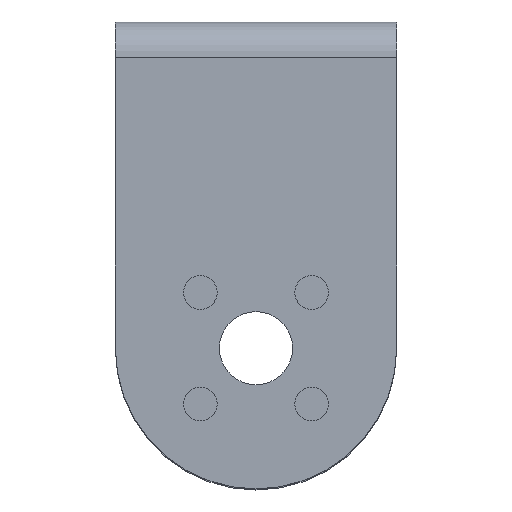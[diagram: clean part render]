
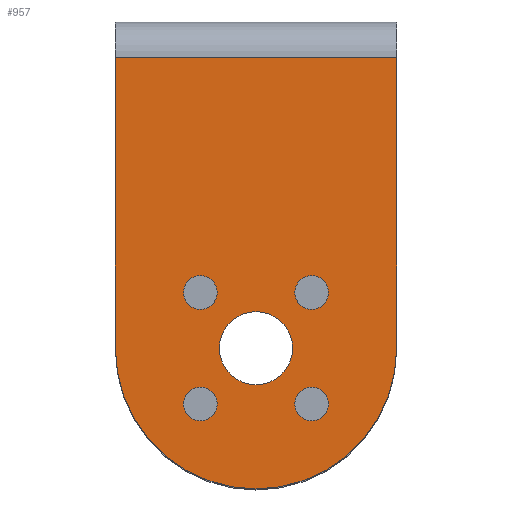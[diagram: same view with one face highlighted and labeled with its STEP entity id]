
A CAD part, top view. The second image highlights one B-rep face of the part: STEP entity #957.
In plain terms, the highlighted planar face has unit normal (0, 0, 1).
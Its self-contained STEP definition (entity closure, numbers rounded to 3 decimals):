
#15 = AXIS2_PLACEMENT_3D ( 'NONE', #530, #548, #400 ) ;
#35 = CARTESIAN_POINT ( 'NONE',  ( 12.5, -29., 28.15 ) ) ;
#44 = AXIS2_PLACEMENT_3D ( 'NONE', #791, #1202, #1334 ) ;
#49 = LINE ( 'NONE', #1377, #563 ) ;
#53 = VERTEX_POINT ( 'NONE', #1149 ) ;
#55 = CARTESIAN_POINT ( 'NONE',  ( 6.45, -24.05, 28.15 ) ) ;
#62 = FACE_BOUND ( 'NONE', #1198, .T. ) ;
#66 = VECTOR ( 'NONE', #1534, 1000. ) ;
#69 = AXIS2_PLACEMENT_3D ( 'NONE', #175, #1379, #1248 ) ;
#80 = FACE_BOUND ( 'NONE', #786, .T. ) ;
#92 = CARTESIAN_POINT ( 'NONE',  ( 4.95, -33.95, 28.15 ) ) ;
#128 = CARTESIAN_POINT ( 'NONE',  ( 0., -29., 28.15 ) ) ;
#129 = AXIS2_PLACEMENT_3D ( 'NONE', #701, #1274, #438 ) ;
#150 = CARTESIAN_POINT ( 'NONE',  ( 0., -29., 28.15 ) ) ;
#156 = AXIS2_PLACEMENT_3D ( 'NONE', #92, #1418, #480 ) ;
#159 = EDGE_CURVE ( 'NONE', #1717, #1580, #1251, .T. ) ;
#168 = CARTESIAN_POINT ( 'NONE',  ( 3.45, -33.95, 28.15 ) ) ;
#175 = CARTESIAN_POINT ( 'NONE',  ( 4.95, -24.05, 28.15 ) ) ;
#180 = DIRECTION ( 'NONE',  ( 0., 0., 1. ) ) ;
#189 = AXIS2_PLACEMENT_3D ( 'NONE', #970, #545, #1661 ) ;
#194 = ORIENTED_EDGE ( 'NONE', *, *, #796, .F. ) ;
#210 = EDGE_CURVE ( 'NONE', #1701, #1197, #1102, .T. ) ;
#215 = VECTOR ( 'NONE', #322, 1000. ) ;
#216 = AXIS2_PLACEMENT_3D ( 'NONE', #150, #803, #664 ) ;
#242 = AXIS2_PLACEMENT_3D ( 'NONE', #128, #1460, #1340 ) ;
#283 = DIRECTION ( 'NONE',  ( 1., 0., 0. ) ) ;
#303 = CARTESIAN_POINT ( 'NONE',  ( -12.5, -41.5, 28.15 ) ) ;
#322 = DIRECTION ( 'NONE',  ( 1., 0., 0. ) ) ;
#325 = ORIENTED_EDGE ( 'NONE', *, *, #1078, .F. ) ;
#333 = ORIENTED_EDGE ( 'NONE', *, *, #1561, .T. ) ;
#336 = CARTESIAN_POINT ( 'NONE',  ( 0., 0., 28.15 ) ) ;
#346 = EDGE_CURVE ( 'NONE', #914, #1055, #463, .T. ) ;
#357 = AXIS2_PLACEMENT_3D ( 'NONE', #733, #481, #899 ) ;
#381 = ORIENTED_EDGE ( 'NONE', *, *, #550, .F. ) ;
#387 = CARTESIAN_POINT ( 'NONE',  ( -6.45, -24.05, 28.15 ) ) ;
#396 = ORIENTED_EDGE ( 'NONE', *, *, #468, .F. ) ;
#400 = DIRECTION ( 'NONE',  ( 1., 0., 0. ) ) ;
#404 = CARTESIAN_POINT ( 'NONE',  ( 4.95, -33.95, 28.15 ) ) ;
#409 = EDGE_LOOP ( 'NONE', ( #1330, #1575 ) ) ;
#438 = DIRECTION ( 'NONE',  ( 1., 0., 0. ) ) ;
#439 = CIRCLE ( 'NONE', #129, 3.25 ) ;
#447 = DIRECTION ( 'NONE',  ( 1., 0., 0. ) ) ;
#459 = PLANE ( 'NONE',  #1298 ) ;
#463 = CIRCLE ( 'NONE', #15, 1.5 ) ;
#465 = CIRCLE ( 'NONE', #44, 3.25 ) ;
#467 = CIRCLE ( 'NONE', #1331, 1.5 ) ;
#468 = EDGE_CURVE ( 'NONE', #53, #646, #439, .T. ) ;
#470 = DIRECTION ( 'NONE',  ( 0., 0., -1. ) ) ;
#477 = FACE_BOUND ( 'NONE', #1150, .T. ) ;
#480 = DIRECTION ( 'NONE',  ( 1., 0., 0. ) ) ;
#481 = DIRECTION ( 'NONE',  ( 0., 0., 1. ) ) ;
#508 = ORIENTED_EDGE ( 'NONE', *, *, #1143, .F. ) ;
#529 = ORIENTED_EDGE ( 'NONE', *, *, #853, .F. ) ;
#530 = CARTESIAN_POINT ( 'NONE',  ( -4.95, -33.95, 28.15 ) ) ;
#533 = ORIENTED_EDGE ( 'NONE', *, *, #210, .F. ) ;
#545 = DIRECTION ( 'NONE',  ( 0., 0., 1. ) ) ;
#548 = DIRECTION ( 'NONE',  ( 0., 0., 1. ) ) ;
#550 = EDGE_CURVE ( 'NONE', #1478, #839, #842, .T. ) ;
#563 = VECTOR ( 'NONE', #574, 1000. ) ;
#573 = CARTESIAN_POINT ( 'NONE',  ( -6.45, -33.95, 28.15 ) ) ;
#574 = DIRECTION ( 'NONE',  ( 0., 1., 0. ) ) ;
#578 = CARTESIAN_POINT ( 'NONE',  ( -3.45, -24.05, 28.15 ) ) ;
#641 = AXIS2_PLACEMENT_3D ( 'NONE', #1504, #1245, #283 ) ;
#644 = CIRCLE ( 'NONE', #357, 1.5 ) ;
#646 = VERTEX_POINT ( 'NONE', #1688 ) ;
#664 = DIRECTION ( 'NONE',  ( 0., 1., 0. ) ) ;
#693 = EDGE_CURVE ( 'NONE', #1092, #1203, #962, .T. ) ;
#701 = CARTESIAN_POINT ( 'NONE',  ( 0., -29., 28.15 ) ) ;
#733 = CARTESIAN_POINT ( 'NONE',  ( -4.95, -24.05, 28.15 ) ) ;
#742 = FACE_BOUND ( 'NONE', #409, .T. ) ;
#756 = EDGE_LOOP ( 'NONE', ( #333, #1605, #1265, #325, #1318 ) ) ;
#768 = FACE_OUTER_BOUND ( 'NONE', #756, .T. ) ;
#786 = EDGE_LOOP ( 'NONE', ( #194, #396 ) ) ;
#791 = CARTESIAN_POINT ( 'NONE',  ( 0., -29., 28.15 ) ) ;
#796 = EDGE_CURVE ( 'NONE', #646, #53, #465, .T. ) ;
#803 = DIRECTION ( 'NONE',  ( 0., 0., 1. ) ) ;
#822 = VERTEX_POINT ( 'NONE', #387 ) ;
#839 = VERTEX_POINT ( 'NONE', #963 ) ;
#842 = CIRCLE ( 'NONE', #69, 1.5 ) ;
#853 = EDGE_CURVE ( 'NONE', #839, #1478, #1408, .T. ) ;
#899 = DIRECTION ( 'NONE',  ( 1., 0., 0. ) ) ;
#905 = CARTESIAN_POINT ( 'NONE',  ( -3.45, -33.95, 28.15 ) ) ;
#914 = VERTEX_POINT ( 'NONE', #573 ) ;
#932 = CARTESIAN_POINT ( 'NONE',  ( 6.45, -33.95, 28.15 ) ) ;
#937 = ORIENTED_EDGE ( 'NONE', *, *, #1684, .F. ) ;
#957 = ADVANCED_FACE ( 'NONE', ( #978, #742, #62, #80, #477, #768 ), #459, .F. ) ;
#962 = CIRCLE ( 'NONE', #242, 12.5 ) ;
#963 = CARTESIAN_POINT ( 'NONE',  ( 3.45, -24.05, 28.15 ) ) ;
#970 = CARTESIAN_POINT ( 'NONE',  ( -4.95, -33.95, 28.15 ) ) ;
#978 = FACE_BOUND ( 'NONE', #1557, .T. ) ;
#992 = CIRCLE ( 'NONE', #216, 12.5 ) ;
#1003 = LINE ( 'NONE', #1543, #215 ) ;
#1021 = AXIS2_PLACEMENT_3D ( 'NONE', #1538, #180, #447 ) ;
#1055 = VERTEX_POINT ( 'NONE', #905 ) ;
#1056 = DIRECTION ( 'NONE',  ( 0., 0., 1. ) ) ;
#1078 = EDGE_CURVE ( 'NONE', #1717, #1389, #1003, .T. ) ;
#1092 = VERTEX_POINT ( 'NONE', #1488 ) ;
#1102 = CIRCLE ( 'NONE', #156, 1.5 ) ;
#1111 = ORIENTED_EDGE ( 'NONE', *, *, #1474, .F. ) ;
#1143 = EDGE_CURVE ( 'NONE', #1197, #1701, #467, .T. ) ;
#1149 = CARTESIAN_POINT ( 'NONE',  ( -3.25, -29., 28.15 ) ) ;
#1150 = EDGE_LOOP ( 'NONE', ( #937, #1111 ) ) ;
#1197 = VERTEX_POINT ( 'NONE', #932 ) ;
#1198 = EDGE_LOOP ( 'NONE', ( #508, #533 ) ) ;
#1202 = DIRECTION ( 'NONE',  ( 0., 0., 1. ) ) ;
#1203 = VERTEX_POINT ( 'NONE', #35 ) ;
#1245 = DIRECTION ( 'NONE',  ( 0., 0., 1. ) ) ;
#1248 = DIRECTION ( 'NONE',  ( 1., 0., 0. ) ) ;
#1251 = LINE ( 'NONE', #303, #66 ) ;
#1265 = ORIENTED_EDGE ( 'NONE', *, *, #1757, .T. ) ;
#1274 = DIRECTION ( 'NONE',  ( 0., 0., 1. ) ) ;
#1291 = VERTEX_POINT ( 'NONE', #578 ) ;
#1293 = EDGE_CURVE ( 'NONE', #1055, #914, #1698, .T. ) ;
#1298 = AXIS2_PLACEMENT_3D ( 'NONE', #336, #470, #1686 ) ;
#1318 = ORIENTED_EDGE ( 'NONE', *, *, #159, .T. ) ;
#1327 = CARTESIAN_POINT ( 'NONE',  ( 12.5, -3.15, 28.15 ) ) ;
#1330 = ORIENTED_EDGE ( 'NONE', *, *, #1293, .F. ) ;
#1331 = AXIS2_PLACEMENT_3D ( 'NONE', #404, #1056, #1626 ) ;
#1334 = DIRECTION ( 'NONE',  ( 1., 0., 0. ) ) ;
#1340 = DIRECTION ( 'NONE',  ( 0., 1., 0. ) ) ;
#1343 = CARTESIAN_POINT ( 'NONE',  ( -12.5, -29., 28.15 ) ) ;
#1377 = CARTESIAN_POINT ( 'NONE',  ( 12.5, -1.5, 28.15 ) ) ;
#1379 = DIRECTION ( 'NONE',  ( 0., 0., 1. ) ) ;
#1389 = VERTEX_POINT ( 'NONE', #1327 ) ;
#1408 = CIRCLE ( 'NONE', #641, 1.5 ) ;
#1418 = DIRECTION ( 'NONE',  ( 0., 0., 1. ) ) ;
#1460 = DIRECTION ( 'NONE',  ( 0., 0., 1. ) ) ;
#1474 = EDGE_CURVE ( 'NONE', #822, #1291, #644, .T. ) ;
#1478 = VERTEX_POINT ( 'NONE', #55 ) ;
#1488 = CARTESIAN_POINT ( 'NONE',  ( 0., -41.5, 28.15 ) ) ;
#1504 = CARTESIAN_POINT ( 'NONE',  ( 4.95, -24.05, 28.15 ) ) ;
#1534 = DIRECTION ( 'NONE',  ( 0., -1., 0. ) ) ;
#1538 = CARTESIAN_POINT ( 'NONE',  ( -4.95, -24.05, 28.15 ) ) ;
#1543 = CARTESIAN_POINT ( 'NONE',  ( 0., -3.15, 28.15 ) ) ;
#1551 = CARTESIAN_POINT ( 'NONE',  ( -12.5, -3.15, 28.15 ) ) ;
#1557 = EDGE_LOOP ( 'NONE', ( #381, #529 ) ) ;
#1559 = CIRCLE ( 'NONE', #1021, 1.5 ) ;
#1561 = EDGE_CURVE ( 'NONE', #1580, #1092, #992, .T. ) ;
#1575 = ORIENTED_EDGE ( 'NONE', *, *, #346, .F. ) ;
#1580 = VERTEX_POINT ( 'NONE', #1343 ) ;
#1605 = ORIENTED_EDGE ( 'NONE', *, *, #693, .T. ) ;
#1626 = DIRECTION ( 'NONE',  ( 1., 0., 0. ) ) ;
#1661 = DIRECTION ( 'NONE',  ( 1., 0., 0. ) ) ;
#1684 = EDGE_CURVE ( 'NONE', #1291, #822, #1559, .T. ) ;
#1686 = DIRECTION ( 'NONE',  ( 0., 1., 0. ) ) ;
#1688 = CARTESIAN_POINT ( 'NONE',  ( 3.25, -29., 28.15 ) ) ;
#1698 = CIRCLE ( 'NONE', #189, 1.5 ) ;
#1701 = VERTEX_POINT ( 'NONE', #168 ) ;
#1717 = VERTEX_POINT ( 'NONE', #1551 ) ;
#1757 = EDGE_CURVE ( 'NONE', #1203, #1389, #49, .T. ) ;
